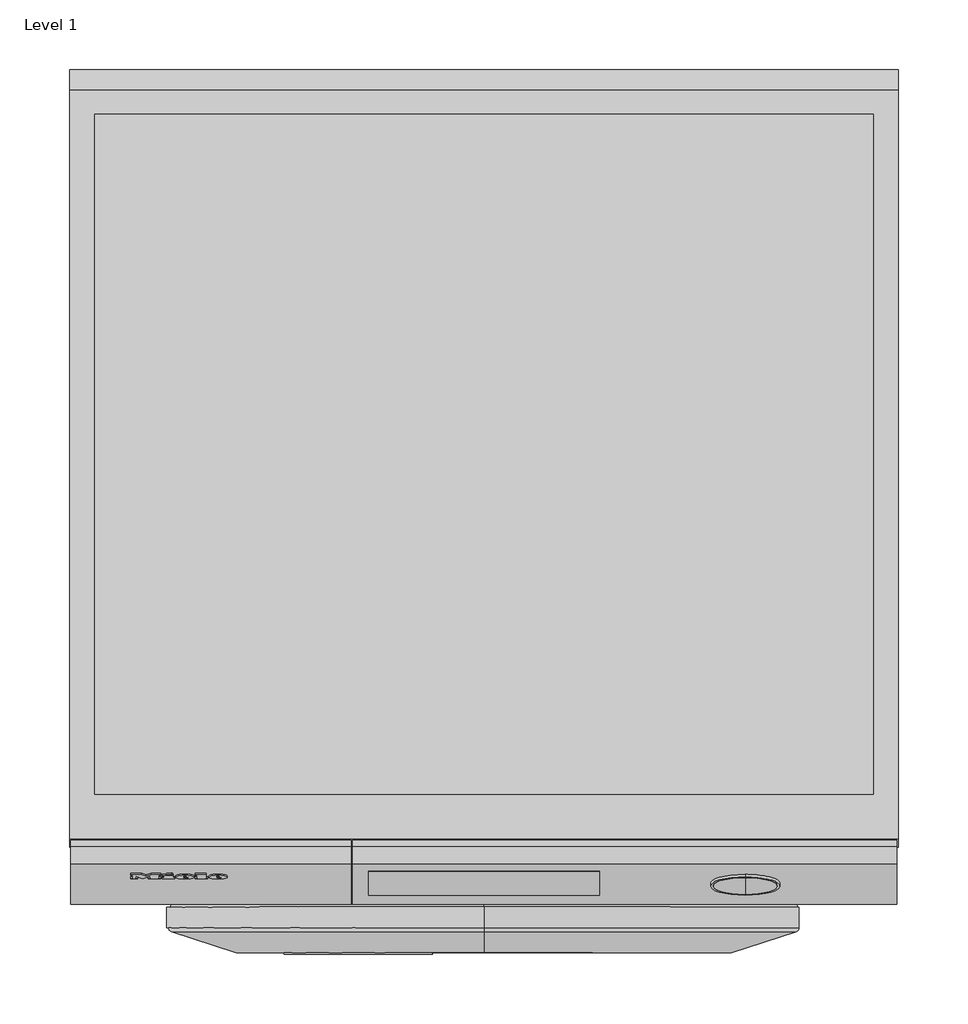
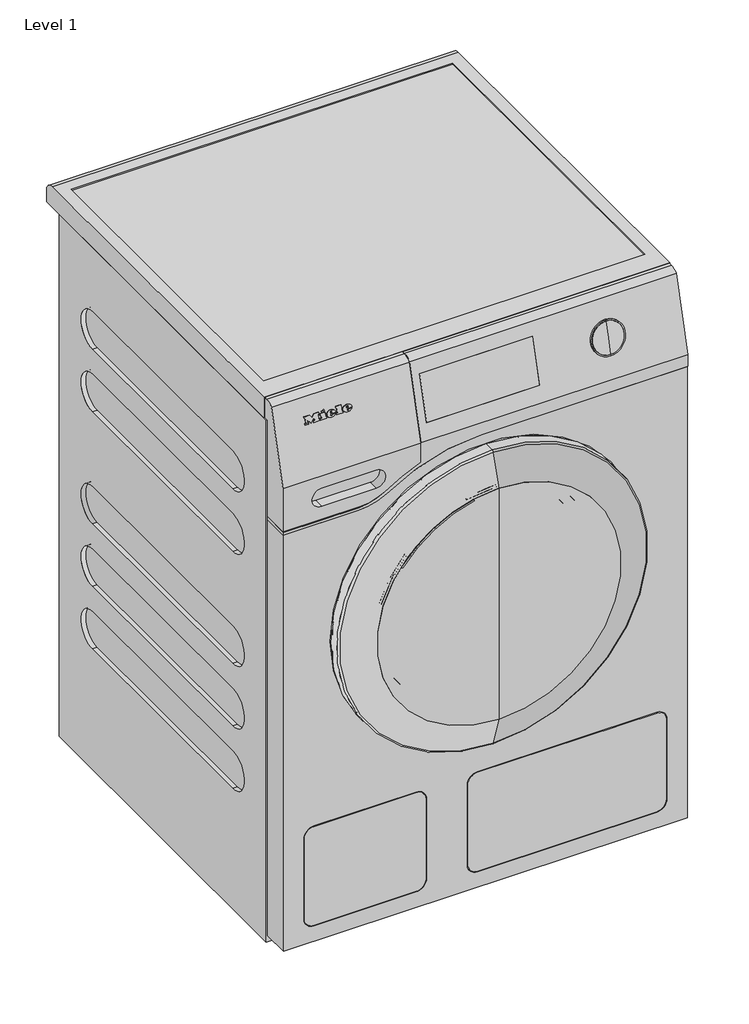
# One storey: 1 proxy.
"""IFC4 building model written with IfcOpenShell, lengths in millimetres."""

from ifc_helpers import new_model, si_unit, origin, place, context, project, spatial, transform, mapped, element, save
from components import specialty_equipment_2ff1fc5d, specialty_equipment_badbdaf0

model = new_model("IFC4")

# Units and contexts
model_context = context("Model", 3, world=origin())
ifc_project = project(units=[si_unit("LENGTHUNIT", "METRE", prefix="MILLI")], contexts=[model_context])

# Site, building, storey
site = spatial("IfcSite", under=ifc_project)
building = spatial("IfcBuilding", under=site)
storey = spatial("IfcBuildingStorey", under=building, Name="Level 1", Elevation=0.0)

# Proxy
placement = place(None, origin())
specialty_equipment_shape = specialty_equipment_2ff1fc5d(model_context)
specialty_equipment_2_shape = specialty_equipment_badbdaf0(model_context)
element("IfcBuildingElementProxy", 1, Name="10998510_UA_WCR870WPS_LW : 11CR8706_UA_10998510_WCR870WPS_LW", ObjectType="10998510_UA_WCR870WPS_LW : 11CR8706_UA_10998510_WCR870WPS_LW", at=placement, inside=storey, context=model_context, shape_type="MappedRepresentation", body=[
    mapped(specialty_equipment_shape, transform((0.0, 0.0, 0.0), x_axis=(1.0, 0.0, 0.0), y_axis=(0.0, 1.0, 0.0), z_axis=(0.0, 0.0, 1.0))),
    mapped(specialty_equipment_2_shape, transform((0.0, 0.0, 0.0), x_axis=(1.0, 0.0, 0.0), y_axis=(0.0, 1.0, 0.0), z_axis=(0.0, 0.0, 1.0))),
])

save(model, "model.ifc")
